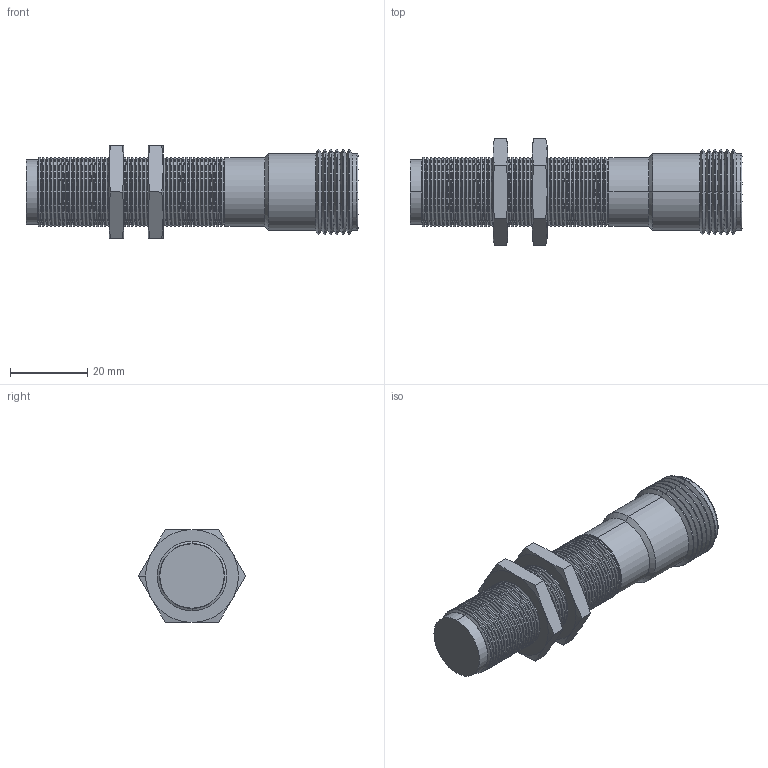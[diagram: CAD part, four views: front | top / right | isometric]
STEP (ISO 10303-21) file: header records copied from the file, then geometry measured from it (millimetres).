
FILE_DESCRIPTION (( 'STEP AP203' ), '1' );
FILE_NAME ('90-XXXX-032.STEP', '2015-08-31T03:36:58', ( 'Sam' ), ( 'Spade' ), 'SwSTEP 2.0', 'SolidWorks 2002296', '' );
FILE_SCHEMA (( 'CONFIG_CONTROL_DESIGN' ));
Length unit declared in the file: inch
Products named in the file (10): 90-XXXX-032; Imported182; Imported181; Imported180; Imported176; Imported179; Imported178; Imported177; Imported183; Imported184
Assembly tree (9 placements, depth 2):
  90-XXXX-032
    Imported179
    Imported180
    Imported182
    Imported181
    Imported176
    Imported184
    Imported183
    Imported177
    Imported178
Bounding box: 85.8 x 27.69 x 23.98 mm (x, y, z)
Volume: 23042.1 mm3; surface area: 13283.6 mm2
Topology: 9 solids, 9 shells, 476 faces, 1104 edges, 648 vertices
Faces by surface type: cone 288, cylinder 142, plane 38, bspline 8
Entity records: 14725 total; most frequent: DIRECTION 2627, CARTESIAN_POINT 2534, ORIENTED_EDGE 2196, AXIS2_PLACEMENT_3D 1101, EDGE_CURVE 1098, VERTEX_POINT 648, CIRCLE 621, EDGE_LOOP 488
